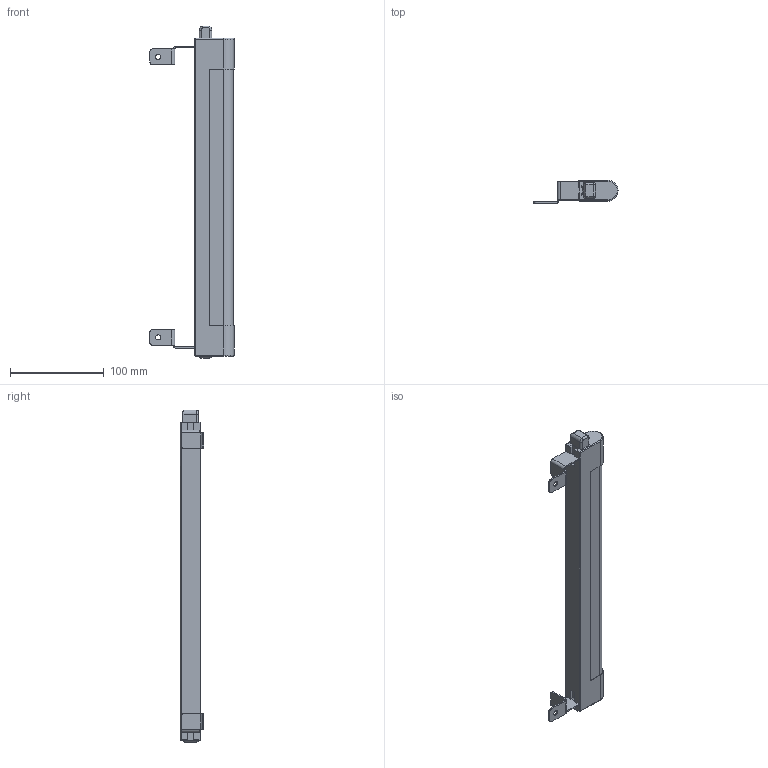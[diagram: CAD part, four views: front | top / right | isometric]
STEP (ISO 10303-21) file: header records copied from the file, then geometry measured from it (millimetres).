
FILE_DESCRIPTION (( 'STEP AP203' ), '1' );
FILE_NAME ('CLG-R238 砚弪桦桕.STEP', '2021-03-22T13:59:33', ( '' ), ( '' ), 'SwSTEP 2.0', 'SolidWorks 2018', '' );
FILE_SCHEMA (( 'CONFIG_CONTROL_DESIGN' ));
Length unit declared in the file: millimetre
Products named in the file (4): Ëàìïà Fandis CLG-R2313; CLG-R238 00.001 Êðîíøòåéí ñâåòèëüíèêà v2_§¥àª «®; CLG-R238 砚弪桦桕; CLG-R238 00.001 Êðîíøòåéí ñâåòèëüíèêà v2
Assembly tree (3 placements, depth 2):
  CLG-R238 砚弪桦桕
    Ëàìïà Fandis CLG-R2313
    CLG-R238 00.001 Êðîíøòåéí ñâåòèëüíèêà v2
    CLG-R238 00.001 Êðîíøòåéí ñâåòèëüíèêà v2_§¥àª «®
Bounding box: 90 x 24.8 x 355 mm (x, y, z)
Volume: 289113.9 mm3; surface area: 50076.7 mm2
Topology: 4 solids, 4 shells, 188 faces, 463 edges, 278 vertices
Faces by surface type: plane 102, cylinder 71, torus 7, bspline 4, sphere 4
Entity records: 5978 total; most frequent: CARTESIAN_POINT 1123, DIRECTION 962, ORIENTED_EDGE 910, EDGE_CURVE 455, AXIS2_PLACEMENT_3D 329, LINE 304, VECTOR 304, VERTEX_POINT 278
